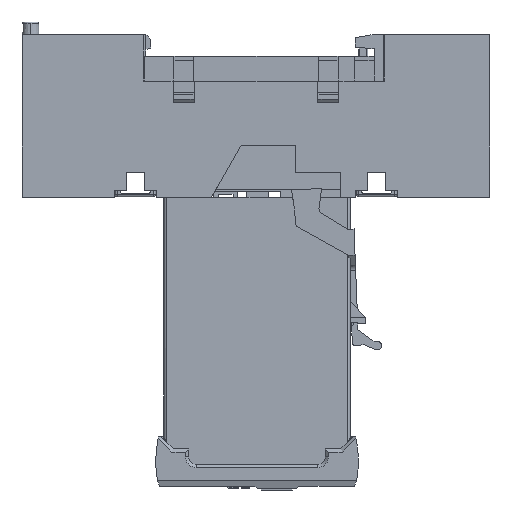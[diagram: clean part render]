
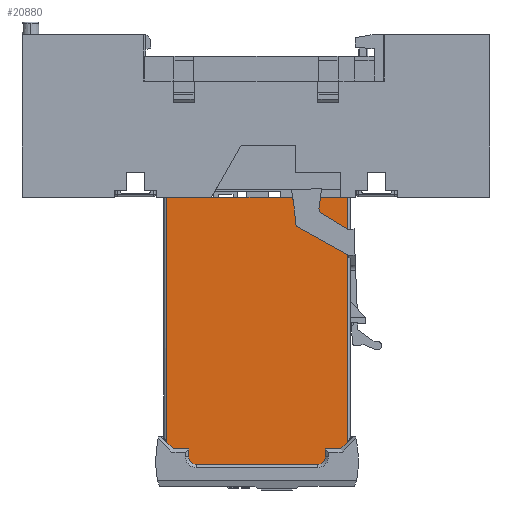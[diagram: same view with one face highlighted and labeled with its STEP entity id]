
A CAD part, left-side view. The second image highlights one B-rep face of the part: STEP entity #20880.
In plain terms, the highlighted planar face has unit normal (-1, 0, 0).
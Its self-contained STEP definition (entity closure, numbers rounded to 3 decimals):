
#197 = CARTESIAN_POINT ( 'NONE',  ( -6.475, 14.338, 0. ) ) ;
#483 = LINE ( 'NONE', #61622, #46889 ) ;
#810 = VECTOR ( 'NONE', #33094, 1000. ) ;
#1170 = LINE ( 'NONE', #60370, #37173 ) ;
#1574 = CARTESIAN_POINT ( 'NONE',  ( -6.475, -13.662, -40.503 ) ) ;
#3085 = ORIENTED_EDGE ( 'NONE', *, *, #53514, .F. ) ;
#3116 = EDGE_CURVE ( 'NONE', #77151, #39618, #12913, .T. ) ;
#3832 = EDGE_CURVE ( 'NONE', #71118, #24091, #46806, .T. ) ;
#6190 = CARTESIAN_POINT ( 'NONE',  ( -6.475, 14.337, -39.503 ) ) ;
#6463 = DIRECTION ( 'NONE',  ( 0., 0., 1. ) ) ;
#6757 = VECTOR ( 'NONE', #18620, 1000. ) ;
#7964 = EDGE_LOOP ( 'NONE', ( #73081, #26683, #53910, #24867, #8882, #8086, #11497, #19226, #77231, #33660, #3085, #39241 ) ) ;
#8086 = ORIENTED_EDGE ( 'NONE', *, *, #3116, .F. ) ;
#8882 = ORIENTED_EDGE ( 'NONE', *, *, #58495, .F. ) ;
#9605 = CARTESIAN_POINT ( 'NONE',  ( -6.475, 14.837, -40.503 ) ) ;
#10860 = VECTOR ( 'NONE', #41245, 1000. ) ;
#11497 = ORIENTED_EDGE ( 'NONE', *, *, #58330, .F. ) ;
#11969 = LINE ( 'NONE', #12308, #26109 ) ;
#12308 = CARTESIAN_POINT ( 'NONE',  ( -6.475, 14.337, -45. ) ) ;
#12913 = LINE ( 'NONE', #31755, #73520 ) ;
#15018 = LINE ( 'NONE', #26432, #810 ) ;
#16256 = DIRECTION ( 'NONE',  ( 0., 1., 0. ) ) ;
#16267 = EDGE_CURVE ( 'NONE', #27270, #33302, #483, .T. ) ;
#16315 = VERTEX_POINT ( 'NONE', #31890 ) ;
#16483 = DIRECTION ( 'NONE',  ( 1., 0., 0. ) ) ;
#18620 = DIRECTION ( 'NONE',  ( 0., 1., 0. ) ) ;
#19182 = DIRECTION ( 'NONE',  ( 0., 1., 0. ) ) ;
#19226 = ORIENTED_EDGE ( 'NONE', *, *, #51043, .F. ) ;
#20880 = ADVANCED_FACE ( 'NONE', ( #58238 ), #54325, .F. ) ;
#22796 = LINE ( 'NONE', #53660, #6757 ) ;
#23126 = LINE ( 'NONE', #76954, #10860 ) ;
#23692 = CIRCLE ( 'NONE', #58573, 1.25 ) ;
#24091 = VERTEX_POINT ( 'NONE', #35506 ) ;
#24867 = ORIENTED_EDGE ( 'NONE', *, *, #16267, .F. ) ;
#25668 = CARTESIAN_POINT ( 'NONE',  ( -6.475, 9.587, -41.753 ) ) ;
#26109 = VECTOR ( 'NONE', #6463, 1000. ) ;
#26432 = CARTESIAN_POINT ( 'NONE',  ( -6.475, -14.662, -39.503 ) ) ;
#26683 = ORIENTED_EDGE ( 'NONE', *, *, #36200, .F. ) ;
#27270 = VERTEX_POINT ( 'NONE', #29140 ) ;
#28427 = AXIS2_PLACEMENT_3D ( 'NONE', #25668, #62329, #38168 ) ;
#29140 = CARTESIAN_POINT ( 'NONE',  ( -6.475, -9.913, -43.003 ) ) ;
#29328 = CIRCLE ( 'NONE', #28427, 1.25 ) ;
#30961 = CARTESIAN_POINT ( 'NONE',  ( -6.475, -11.163, -40.503 ) ) ;
#31755 = CARTESIAN_POINT ( 'NONE',  ( -6.475, -11.163, -45. ) ) ;
#31890 = CARTESIAN_POINT ( 'NONE',  ( -6.475, 10.838, -41.753 ) ) ;
#33094 = DIRECTION ( 'NONE',  ( 0., 0.707, -0.707 ) ) ;
#33302 = VERTEX_POINT ( 'NONE', #48522 ) ;
#33660 = ORIENTED_EDGE ( 'NONE', *, *, #47260, .F. ) ;
#34458 = EDGE_CURVE ( 'NONE', #24091, #61726, #23126, .T. ) ;
#34699 = DIRECTION ( 'NONE',  ( 0., 0., -1. ) ) ;
#34968 = CARTESIAN_POINT ( 'NONE',  ( -6.475, -9.913, -41.753 ) ) ;
#35506 = CARTESIAN_POINT ( 'NONE',  ( -6.475, 13.337, -40.503 ) ) ;
#36200 = EDGE_CURVE ( 'NONE', #16315, #71118, #76745, .T. ) ;
#36981 = DIRECTION ( 'NONE',  ( 0., 0., 1. ) ) ;
#37173 = VECTOR ( 'NONE', #42337, 1000. ) ;
#38168 = DIRECTION ( 'NONE',  ( 0., 1., 0. ) ) ;
#38499 = CARTESIAN_POINT ( 'NONE',  ( -6.475, 10.837, -40.503 ) ) ;
#38558 = VERTEX_POINT ( 'NONE', #1574 ) ;
#39241 = ORIENTED_EDGE ( 'NONE', *, *, #34458, .F. ) ;
#39618 = VERTEX_POINT ( 'NONE', #53710 ) ;
#41245 = DIRECTION ( 'NONE',  ( 0., 0.707, 0.707 ) ) ;
#42337 = DIRECTION ( 'NONE',  ( 0., 0., -1. ) ) ;
#42345 = DIRECTION ( 'NONE',  ( 1., 0., 0. ) ) ;
#43333 = CARTESIAN_POINT ( 'NONE',  ( -6.475, 10.837, -45. ) ) ;
#46806 = LINE ( 'NONE', #9605, #70492 ) ;
#46889 = VECTOR ( 'NONE', #19182, 1000. ) ;
#47260 = EDGE_CURVE ( 'NONE', #76422, #75158, #66778, .T. ) ;
#47943 = EDGE_CURVE ( 'NONE', #75158, #74312, #1170, .T. ) ;
#48352 = CARTESIAN_POINT ( 'NONE',  ( -6.475, -14.662, 0. ) ) ;
#48522 = CARTESIAN_POINT ( 'NONE',  ( -6.475, 9.587, -43.003 ) ) ;
#48970 = DIRECTION ( 'NONE',  ( 0., -1., 0. ) ) ;
#51043 = EDGE_CURVE ( 'NONE', #74312, #38558, #15018, .T. ) ;
#53514 = EDGE_CURVE ( 'NONE', #61726, #76422, #11969, .T. ) ;
#53660 = CARTESIAN_POINT ( 'NONE',  ( -6.475, 14.837, -40.503 ) ) ;
#53710 = CARTESIAN_POINT ( 'NONE',  ( -6.475, -11.162, -41.753 ) ) ;
#53910 = ORIENTED_EDGE ( 'NONE', *, *, #68893, .F. ) ;
#54325 = PLANE ( 'NONE',  #58275 ) ;
#56564 = CARTESIAN_POINT ( 'NONE',  ( -6.475, 14.837, 0. ) ) ;
#58238 = FACE_OUTER_BOUND ( 'NONE', #7964, .T. ) ;
#58275 = AXIS2_PLACEMENT_3D ( 'NONE', #66931, #42345, #48970 ) ;
#58330 = EDGE_CURVE ( 'NONE', #38558, #77151, #22796, .T. ) ;
#58495 = EDGE_CURVE ( 'NONE', #39618, #27270, #23692, .T. ) ;
#58573 = AXIS2_PLACEMENT_3D ( 'NONE', #34968, #16483, #34699 ) ;
#59397 = DIRECTION ( 'NONE',  ( 0., -1., 0. ) ) ;
#60370 = CARTESIAN_POINT ( 'NONE',  ( -6.475, -14.663, -45. ) ) ;
#61622 = CARTESIAN_POINT ( 'NONE',  ( -6.475, 14.837, -43.003 ) ) ;
#61726 = VERTEX_POINT ( 'NONE', #6190 ) ;
#62329 = DIRECTION ( 'NONE',  ( 1., 0., 0. ) ) ;
#64911 = VECTOR ( 'NONE', #59397, 1000. ) ;
#66778 = LINE ( 'NONE', #56564, #64911 ) ;
#66931 = CARTESIAN_POINT ( 'NONE',  ( -6.475, 14.837, -45. ) ) ;
#68026 = DIRECTION ( 'NONE',  ( 0., 0., -1. ) ) ;
#68252 = VECTOR ( 'NONE', #36981, 1000. ) ;
#68893 = EDGE_CURVE ( 'NONE', #33302, #16315, #29328, .T. ) ;
#70492 = VECTOR ( 'NONE', #16256, 1000. ) ;
#71118 = VERTEX_POINT ( 'NONE', #38499 ) ;
#71162 = CARTESIAN_POINT ( 'NONE',  ( -6.475, -14.663, -39.503 ) ) ;
#73081 = ORIENTED_EDGE ( 'NONE', *, *, #3832, .F. ) ;
#73520 = VECTOR ( 'NONE', #68026, 1000. ) ;
#74312 = VERTEX_POINT ( 'NONE', #71162 ) ;
#75158 = VERTEX_POINT ( 'NONE', #48352 ) ;
#76422 = VERTEX_POINT ( 'NONE', #197 ) ;
#76745 = LINE ( 'NONE', #43333, #68252 ) ;
#76954 = CARTESIAN_POINT ( 'NONE',  ( -6.475, 13.337, -40.503 ) ) ;
#77151 = VERTEX_POINT ( 'NONE', #30961 ) ;
#77231 = ORIENTED_EDGE ( 'NONE', *, *, #47943, .F. ) ;
